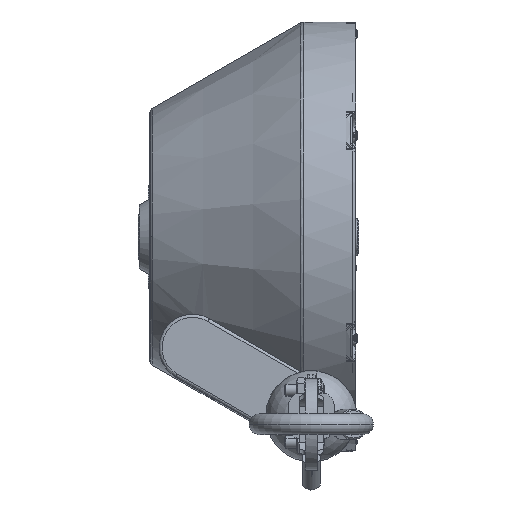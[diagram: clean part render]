
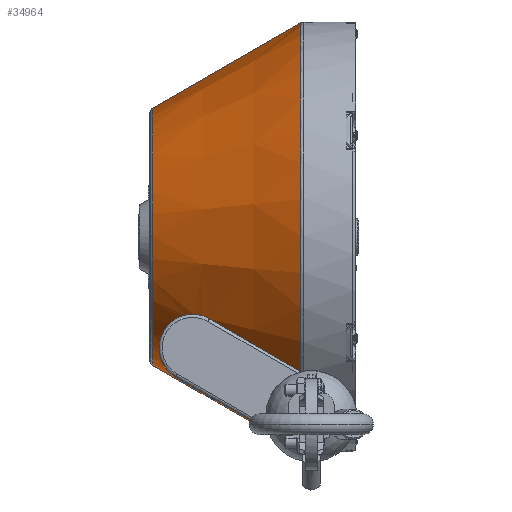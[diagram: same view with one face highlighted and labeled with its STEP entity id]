
A CAD part, top view. The second image highlights one B-rep face of the part: STEP entity #34964.
In plain terms, the highlighted conical face has half-angle 30 degrees and reference radius 56.337 mm.
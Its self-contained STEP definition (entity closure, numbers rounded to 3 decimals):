
#9356=CARTESIAN_POINT('',(49.5,-69.428,10.213));
#9357=CARTESIAN_POINT('',(49.564,-69.45,10.32));
#9358=CARTESIAN_POINT('',(49.69,-69.491,10.539));
#9359=CARTESIAN_POINT('',(49.878,-69.548,10.878));
#9360=CARTESIAN_POINT('',(50.001,-69.583,11.109));
#9361=CARTESIAN_POINT('',(50.062,-69.6,11.226));
#9366=CARTESIAN_POINT('',(47.5,-68.526,8.247));
#9367=CARTESIAN_POINT('',(47.688,-68.635,8.253));
#9368=CARTESIAN_POINT('',(48.053,-68.831,8.388));
#9369=CARTESIAN_POINT('',(48.577,-69.077,8.87));
#9370=CARTESIAN_POINT('',(49.04,-69.266,9.463));
#9371=CARTESIAN_POINT('',(49.345,-69.376,9.951));
#9372=CARTESIAN_POINT('',(49.5,-69.428,10.213));
#9391=CARTESIAN_POINT('',(50.062,0.,0.));
#9392=DIRECTION('',(-1.,0.,0.));
#9393=DIRECTION('',(0.,-1.,0.));
#9394=AXIS2_PLACEMENT_3D('',#9391,#9392,#9393);
#9399=DIRECTION('',(0.866,0.5,0.));
#9400=VECTOR('',#9399,56.116);
#9401=CARTESIAN_POINT('',(1.,42.174,0.));
#9402=LINE('',#9401,#9400);
#9406=DIRECTION('',(0.866,-0.5,0.));
#9407=VECTOR('',#9406,56.652);
#9408=CARTESIAN_POINT('',(1.,-42.174,0.));
#9409=LINE('',#9408,#9407);
#9455=CARTESIAN_POINT('',(49.598,0.,0.));
#9456=DIRECTION('',(1.,0.,0.));
#9457=DIRECTION('',(0.,0.,1.));
#9458=AXIS2_PLACEMENT_3D('',#9455,#9456,#9457);
#9463=CARTESIAN_POINT('',(49.598,0.,0.));
#9464=DIRECTION('',(1.,0.,0.));
#9465=DIRECTION('',(0.,1.,0.));
#9466=AXIS2_PLACEMENT_3D('',#9463,#9464,#9465);
#16148=CARTESIAN_POINT('',(49.598,-44.334,
54.47));
#16149=CARTESIAN_POINT('',(46.032,-42.275,
53.492));
#16150=CARTESIAN_POINT('',(39.05,-38.244,
51.522));
#16151=CARTESIAN_POINT('',(29.034,-32.462,
48.53));
#16152=CARTESIAN_POINT('',(22.648,-28.774,
46.499));
#16153=CARTESIAN_POINT('',(19.529,-26.974,
45.473));
#16163=CARTESIAN_POINT('',(49.598,-44.334,
54.47));
#16238=CARTESIAN_POINT('',(45.485,-67.363,
8.177));
#16239=CARTESIAN_POINT('',(46.157,-67.751,
8.2));
#16240=CARTESIAN_POINT('',(46.828,-68.139,
8.224));
#16241=CARTESIAN_POINT('',(47.5,-68.526,8.247));
#16246=CARTESIAN_POINT('',(8.529,-46.026,
6.765));
#16247=CARTESIAN_POINT('',(12.635,-48.397,
6.938));
#16248=CARTESIAN_POINT('',(20.847,-53.138,
7.271));
#16249=CARTESIAN_POINT('',(33.166,-60.25,
7.739));
#16250=CARTESIAN_POINT('',(41.379,-64.992,
8.033));
#16251=CARTESIAN_POINT('',(45.485,-67.363,
8.177));
#16263=CARTESIAN_POINT('',(19.529,-26.974,
45.473));
#16264=CARTESIAN_POINT('',(19.152,-26.756,
45.35));
#16265=CARTESIAN_POINT('',(18.351,-26.353,
45.05));
#16266=CARTESIAN_POINT('',(17.003,-25.876,
44.427));
#16267=CARTESIAN_POINT('',(15.545,-25.57,
43.631));
#16268=CARTESIAN_POINT('',(14.003,-25.463,
42.661));
#16269=CARTESIAN_POINT('',(12.419,-25.58,
41.522));
#16270=CARTESIAN_POINT('',(10.864,-25.926,
40.245));
#16271=CARTESIAN_POINT('',(9.394,-26.483,
38.861));
#16272=CARTESIAN_POINT('',(8.03,-27.236,
37.37));
#16273=CARTESIAN_POINT('',(6.784,-28.174,
35.76));
#16274=CARTESIAN_POINT('',(5.672,-29.289,
34.016));
#16275=CARTESIAN_POINT('',(4.709,-30.582,
32.101));
#16276=CARTESIAN_POINT('',(3.922,-32.046,
29.989));
#16277=CARTESIAN_POINT('',(3.343,-33.704,
27.596));
#16278=CARTESIAN_POINT('',(3.054,-35.34,
25.175));
#16279=CARTESIAN_POINT('',(3.007,-36.743,
23.013));
#16280=CARTESIAN_POINT('',(3.104,-37.935,
21.096));
#16281=CARTESIAN_POINT('',(3.295,-38.969,
19.358));
#16282=CARTESIAN_POINT('',(3.543,-39.863,
17.793));
#16283=CARTESIAN_POINT('',(3.828,-40.641,
16.374));
#16284=CARTESIAN_POINT('',(4.134,-41.322,
15.087));
#16285=CARTESIAN_POINT('',(4.45,-41.921,
13.92));
#16286=CARTESIAN_POINT('',(4.771,-42.45,
12.861));
#16287=CARTESIAN_POINT('',(5.091,-42.92,
11.901));
#16288=CARTESIAN_POINT('',(5.409,-43.34,
11.033));
#16289=CARTESIAN_POINT('',(5.724,-43.718,
10.25));
#16290=CARTESIAN_POINT('',(6.035,-44.061,
9.545));
#16291=CARTESIAN_POINT('',(6.344,-44.374,
8.915));
#16292=CARTESIAN_POINT('',(6.651,-44.662,
8.359));
#16293=CARTESIAN_POINT('',(6.958,-44.93,
7.876));
#16294=CARTESIAN_POINT('',(7.269,-45.181,
7.469));
#16295=CARTESIAN_POINT('',(7.585,-45.418,7.143));
#16296=CARTESIAN_POINT('',(7.904,-45.64,
6.911));
#16297=CARTESIAN_POINT('',(8.23,-45.85,
6.779));
#16298=CARTESIAN_POINT('',(8.431,-45.97,
6.76));
#16299=CARTESIAN_POINT('',(8.529,-46.026,
6.765));
#26565=CARTESIAN_POINT('',(1.,0.,0.));
#26566=DIRECTION('',(-1.,0.,0.));
#26567=DIRECTION('',(0.,0.,1.));
#26568=AXIS2_PLACEMENT_3D('',#26565,#26566,#26567);
#26589=CARTESIAN_POINT('',(1.,0.,0.));
#26590=DIRECTION('',(-1.,0.,0.));
#26591=DIRECTION('',(0.,-1.,0.));
#26592=AXIS2_PLACEMENT_3D('',#26589,#26590,#26591);
#30916=CARTESIAN_POINT('',(47.5,-68.526,8.247));
#30917=VERTEX_POINT('',#30916);
#31399=CARTESIAN_POINT('',(8.529,-46.026,
6.765));
#31400=VERTEX_POINT('',#31399);
#31401=CARTESIAN_POINT('',(19.529,-26.974,
45.473));
#31402=VERTEX_POINT('',#31401);
#31404=VERTEX_POINT('',#16163);
#32936=CARTESIAN_POINT('',(1.,-42.174,0.));
#32937=CARTESIAN_POINT('',(50.062,-70.5,0.));
#32938=VERTEX_POINT('',#32936);
#32939=VERTEX_POINT('',#32937);
#32940=CARTESIAN_POINT('',(1.,42.174,0.));
#32941=CARTESIAN_POINT('',(49.598,70.232,0.));
#32942=VERTEX_POINT('',#32940);
#32943=VERTEX_POINT('',#32941);
#32944=VERTEX_POINT('',#9356);
#32945=VERTEX_POINT('',#9361);
#32946=CARTESIAN_POINT('',(49.598,0.,
70.232));
#32947=VERTEX_POINT('',#32946);
#32948=VERTEX_POINT('',#16251);
#33132=CARTESIAN_POINT('',(1.,0.,42.174));
#33133=VERTEX_POINT('',#33132);
#34934=CARTESIAN_POINT('',(25.531,0.,0.));
#34935=DIRECTION('',(1.,0.,0.));
#34936=DIRECTION('',(0.,1.,0.));
#34937=AXIS2_PLACEMENT_3D('',#34934,#34935,#34936);
#34938=CONICAL_SURFACE('',#34937,56.337,30.);
#34939=ORIENTED_EDGE('',*,*,#34912,.T.);
#34940=ORIENTED_EDGE('',*,*,#34892,.F.);
#34942=ORIENTED_EDGE('',*,*,#34941,.F.);
#34944=ORIENTED_EDGE('',*,*,#34943,.T.);
#34946=ORIENTED_EDGE('',*,*,#34945,.T.);
#34948=ORIENTED_EDGE('',*,*,#34947,.T.);
#34950=ORIENTED_EDGE('',*,*,#34949,.T.);
#34952=ORIENTED_EDGE('',*,*,#34951,.T.);
#34954=ORIENTED_EDGE('',*,*,#34953,.T.);
#34956=ORIENTED_EDGE('',*,*,#34955,.T.);
#34958=ORIENTED_EDGE('',*,*,#34957,.T.);
#34960=ORIENTED_EDGE('',*,*,#34959,.T.);
#34961=ORIENTED_EDGE('',*,*,#34914,.T.);
#34962=EDGE_LOOP('',(#34939,#34940,#34942,#34944,#34946,#34948,#34950,#34952,
#34954,#34956,#34958,#34960,#34961));
#34963=FACE_OUTER_BOUND('',#34962,.F.);
#9362=B_SPLINE_CURVE_WITH_KNOTS('',3,(#9356,#9357,#9358,#9359,#9360,#9361),
.UNSPECIFIED.,.F.,.F.,(4,1,1,4),(0.,0.333,0.667,1.),
.UNSPECIFIED.);
#9373=B_SPLINE_CURVE_WITH_KNOTS('',3,(#9366,#9367,#9368,#9369,#9370,#9371,
#9372),.UNSPECIFIED.,.F.,.F.,(4,1,1,1,4),(0.,0.25,0.5,0.75,1.),
.UNSPECIFIED.);
#9395=CIRCLE('',#9394,70.5);
#9459=CIRCLE('',#9458,70.232);
#9467=CIRCLE('',#9466,70.232);
#16154=B_SPLINE_CURVE_WITH_KNOTS('',3,(#16148,#16149,#16150,#16151,#16152,
#16153),.UNSPECIFIED.,.F.,.F.,(4,1,1,4),(0.,0.333,
0.667,1.),.UNSPECIFIED.);
#16242=B_SPLINE_CURVE_WITH_KNOTS('',3,(#16238,#16239,#16240,#16241),
.UNSPECIFIED.,.F.,.F.,(4,4),(0.,1.),.UNSPECIFIED.);
#16252=B_SPLINE_CURVE_WITH_KNOTS('',3,(#16246,#16247,#16248,#16249,#16250,
#16251),.UNSPECIFIED.,.F.,.F.,(4,1,1,4),(0.,0.333,
0.667,1.),.UNSPECIFIED.);
#16300=B_SPLINE_CURVE_WITH_KNOTS('',3,(#16263,#16264,#16265,#16266,#16267,
#16268,#16269,#16270,#16271,#16272,#16273,#16274,#16275,#16276,#16277,#16278,
#16279,#16280,#16281,#16282,#16283,#16284,#16285,#16286,#16287,#16288,#16289,
#16290,#16291,#16292,#16293,#16294,#16295,#16296,#16297,#16298,#16299),
.UNSPECIFIED.,.F.,.F.,(4,1,1,1,1,1,1,1,1,1,1,1,1,1,1,1,1,1,1,1,1,1,1,1,1,1,1,1,
1,1,1,1,1,1,4),(0.,0.029,0.059,0.088,
0.118,0.147,0.176,0.206,
0.235,0.265,0.294,0.324,
0.353,0.382,0.412,0.441,
0.471,0.5,0.529,0.559,0.588,
0.618,0.647,0.676,0.706,
0.735,0.765,0.794,0.824,
0.853,0.882,0.912,0.941,
0.971,1.),.UNSPECIFIED.);
#26569=CIRCLE('',#26568,42.174);
#26593=CIRCLE('',#26592,42.174);
#34892=EDGE_CURVE('',#32939,#32945,#9395,.T.);
#34912=EDGE_CURVE('',#32944,#32945,#9362,.T.);
#34914=EDGE_CURVE('',#30917,#32944,#9373,.T.);
#34941=EDGE_CURVE('',#32938,#32939,#9409,.T.);
#34943=EDGE_CURVE('',#32938,#33133,#26593,.T.);
#34945=EDGE_CURVE('',#33133,#32942,#26569,.T.);
#34947=EDGE_CURVE('',#32942,#32943,#9402,.T.);
#34949=EDGE_CURVE('',#32943,#32947,#9467,.T.);
#34951=EDGE_CURVE('',#32947,#31404,#9459,.T.);
#34953=EDGE_CURVE('',#31404,#31402,#16154,.T.);
#34955=EDGE_CURVE('',#31402,#31400,#16300,.T.);
#34957=EDGE_CURVE('',#31400,#32948,#16252,.T.);
#34959=EDGE_CURVE('',#32948,#30917,#16242,.T.);
#34964=ADVANCED_FACE('',(#34963),#34938,.T.);
